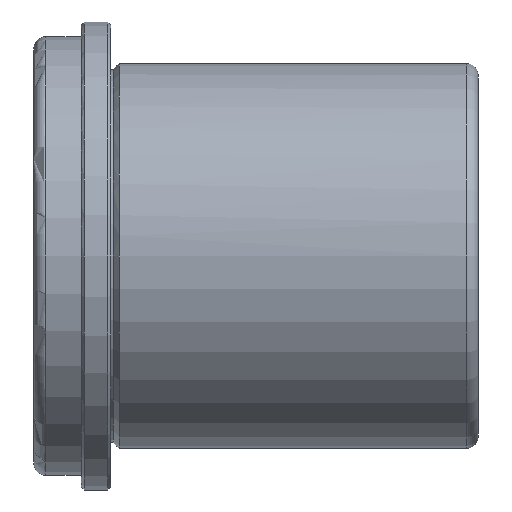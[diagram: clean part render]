
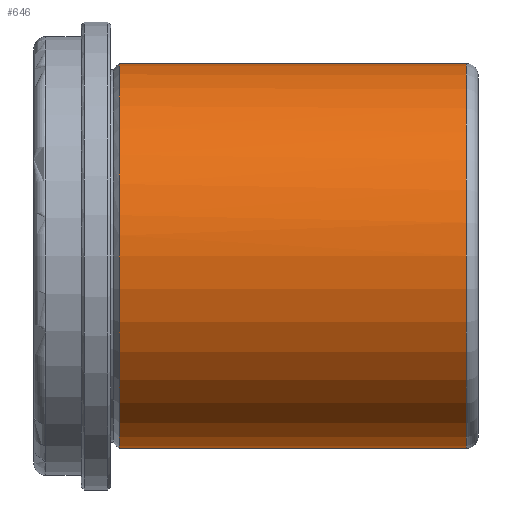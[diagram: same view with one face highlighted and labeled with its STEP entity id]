
A CAD part, front view. The second image highlights one B-rep face of the part: STEP entity #646.
In plain terms, the highlighted cylindrical face has radius 32.5 mm (diameter 65 mm), a partial arc.
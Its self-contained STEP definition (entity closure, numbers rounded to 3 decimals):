
#419=CARTESIAN_POINT('Line Origine',(62.,0.,32.5)) ;
#423=CARTESIAN_POINT('Vertex',(60.,0.,32.5)) ;
#425=CARTESIAN_POINT('Vertex',(1.414,0.,32.5)) ;
#439=CARTESIAN_POINT('Vertex',(60.,0.,-32.5)) ;
#442=CARTESIAN_POINT('Line Origine',(62.,0.,-32.5)) ;
#446=CARTESIAN_POINT('Vertex',(1.414,0.,-32.5)) ;
#603=CARTESIAN_POINT('Axis2P3D Location',(62.,0.,0.)) ;
#608=CARTESIAN_POINT('Axis2P3D Location',(60.,0.,0.)) ;
#612=CARTESIAN_POINT('Vertex',(60.,-32.5,0.)) ;
#615=CARTESIAN_POINT('Axis2P3D Location',(60.,0.,0.)) ;
#621=CARTESIAN_POINT('Control Point',(1.414,0.,32.5)) ;
#622=CARTESIAN_POINT('Control Point',(1.414,-5.105,32.5)) ;
#623=CARTESIAN_POINT('Control Point',(1.414,-10.21,31.498)) ;
#624=CARTESIAN_POINT('Control Point',(1.414,-15.052,29.492)) ;
#625=CARTESIAN_POINT('Control Point',(1.414,-23.69,23.69)) ;
#626=CARTESIAN_POINT('Control Point',(1.414,-29.492,15.052)) ;
#627=CARTESIAN_POINT('Control Point',(1.414,-31.498,10.21)) ;
#628=CARTESIAN_POINT('Control Point',(1.414,-32.5,5.105)) ;
#629=CARTESIAN_POINT('Control Point',(1.414,-32.5,0.)) ;
#630=CARTESIAN_POINT('Vertex',(1.414,-32.5,0.)) ;
#633=CARTESIAN_POINT('Axis2P3D Location',(1.414,0.,0.)) ;
#420=DIRECTION('Vector Direction',(-1.,0.,0.)) ;
#443=DIRECTION('Vector Direction',(-1.,0.,0.)) ;
#604=DIRECTION('Axis2P3D Direction',(-1.,-0.,-0.)) ;
#605=DIRECTION('Axis2P3D XDirection',(0.,0.,-1.)) ;
#609=DIRECTION('Axis2P3D Direction',(-1.,-0.,-0.)) ;
#616=DIRECTION('Axis2P3D Direction',(-1.,-0.,-0.)) ;
#634=DIRECTION('Axis2P3D Direction',(-1.,-0.,-0.)) ;
#606=AXIS2_PLACEMENT_3D('Cylinder Axis2P3D',#603,#604,#605) ;
#610=AXIS2_PLACEMENT_3D('Circle Axis2P3D',#608,#609,$) ;
#617=AXIS2_PLACEMENT_3D('Circle Axis2P3D',#615,#616,$) ;
#635=AXIS2_PLACEMENT_3D('Circle Axis2P3D',#633,#634,$) ;
#639=ORIENTED_EDGE('',*,*,#448,.T.) ;
#640=ORIENTED_EDGE('',*,*,#614,.F.) ;
#641=ORIENTED_EDGE('',*,*,#619,.F.) ;
#642=ORIENTED_EDGE('',*,*,#427,.T.) ;
#643=ORIENTED_EDGE('',*,*,#632,.T.) ;
#644=ORIENTED_EDGE('',*,*,#637,.T.) ;
#421=VECTOR('Line Direction',#420,1.) ;
#444=VECTOR('Line Direction',#443,1.) ;
#646=ADVANCED_FACE('FAMO-SF1-B52 x 75',(#645),#607,.T.) ;
#620=B_SPLINE_CURVE_WITH_KNOTS('',5,(#621,#622,#623,#624,#625,#626,#627,#628,#629),.UNSPECIFIED.,.F.,.U.,(6,3,6),(-25.525,0.,25.525),.UNSPECIFIED.) ;
#611=CIRCLE('generated circle',#610,32.5) ;
#618=CIRCLE('generated circle',#617,32.5) ;
#636=CIRCLE('generated circle',#635,32.5) ;
#607=CYLINDRICAL_SURFACE('generated cylinder',#606,32.5) ;
#427=EDGE_CURVE('',#424,#426,#422,.T.) ;
#448=EDGE_CURVE('',#447,#440,#445,.F.) ;
#614=EDGE_CURVE('',#613,#440,#611,.F.) ;
#619=EDGE_CURVE('',#424,#613,#618,.F.) ;
#632=EDGE_CURVE('',#426,#631,#620,.T.) ;
#637=EDGE_CURVE('',#631,#447,#636,.F.) ;
#638=EDGE_LOOP('',(#639,#640,#641,#642,#643,#644)) ;
#645=FACE_OUTER_BOUND('',#638,.T.) ;
#422=LINE('Line',#419,#421) ;
#445=LINE('Line',#442,#444) ;
#424=VERTEX_POINT('',#423) ;
#426=VERTEX_POINT('',#425) ;
#440=VERTEX_POINT('',#439) ;
#447=VERTEX_POINT('',#446) ;
#613=VERTEX_POINT('',#612) ;
#631=VERTEX_POINT('',#630) ;
